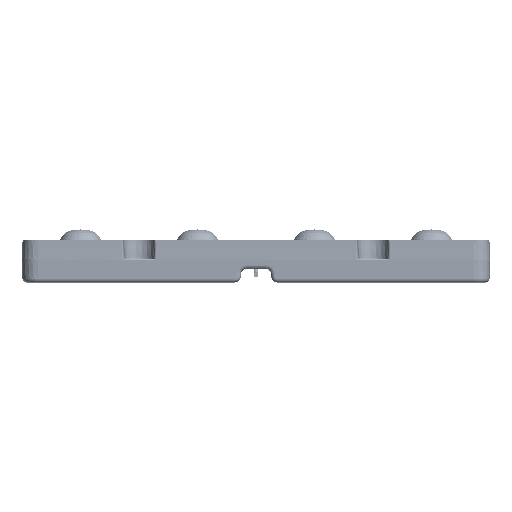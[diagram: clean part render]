
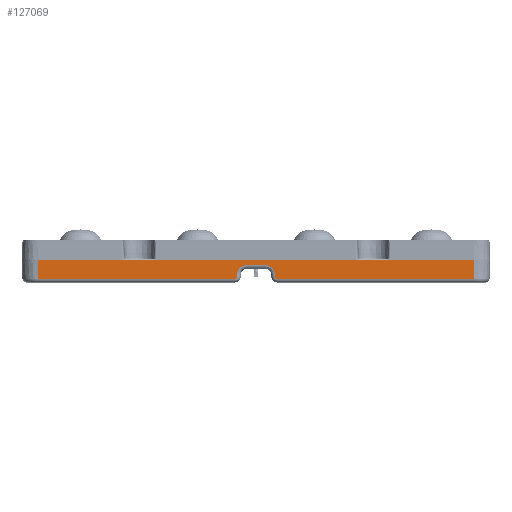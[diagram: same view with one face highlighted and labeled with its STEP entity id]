
A CAD part, front view. The second image highlights one B-rep face of the part: STEP entity #127069.
In plain terms, the highlighted planar face has unit normal (0, -1, -0.026).
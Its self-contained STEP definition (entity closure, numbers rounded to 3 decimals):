
#2927 = LINE ( 'NONE', #384863, #78579 ) ;
#4086 = CARTESIAN_POINT ( 'NONE',  ( -5.423, -59.875, -9.526 ) ) ;
#10270 = ORIENTED_EDGE ( 'NONE', *, *, #216749, .T. ) ;
#17976 = CARTESIAN_POINT ( 'NONE',  ( 4.89, -59.905, -8.395 ) ) ;
#20113 = FACE_OUTER_BOUND ( 'NONE', #346949, .T. ) ;
#27718 = EDGE_CURVE ( 'NONE', #396508, #205145, #86492, .T. ) ;
#31238 = LINE ( 'NONE', #100553, #364220 ) ;
#43070 = LINE ( 'NONE', #83146, #128778 ) ;
#48830 = DIRECTION ( 'NONE',  ( 0., -1., -0.026 ) ) ;
#53543 = DIRECTION ( 'NONE',  ( 0.052, 0.026, -0.998 ) ) ;
#53930 = CARTESIAN_POINT ( 'NONE',  ( 5.423, -59.875, -9.526 ) ) ;
#55706 = ORIENTED_EDGE ( 'NONE', *, *, #350644, .T. ) ;
#59962 = ORIENTED_EDGE ( 'NONE', *, *, #118695, .T. ) ;
#66367 = VECTOR ( 'NONE', #81716, 1000. ) ;
#66398 = LINE ( 'NONE', #222714, #409398 ) ;
#68999 = CARTESIAN_POINT ( 'NONE',  ( -4.924, -59.887, -9.052 ) ) ;
#69964 = CARTESIAN_POINT ( 'NONE',  ( -4.924, -59.887, -9.052 ) ) ;
#75151 = EDGE_CURVE ( 'NONE', #249907, #315292, #285956, .T. ) ;
#76267 = CARTESIAN_POINT ( 'NONE',  ( -3.798, -59.967, -6.026 ) ) ;
#78579 = VECTOR ( 'NONE', #417259, 1000. ) ;
#81716 = DIRECTION ( 'NONE',  ( 0., -0.026, 1. ) ) ;
#83146 = CARTESIAN_POINT ( 'NONE',  ( 4.686, -60.006, -4.505 ) ) ;
#83248 = VERTEX_POINT ( 'NONE', #397272 ) ;
#86492 = LINE ( 'NONE', #112741, #66367 ) ;
#86707 = ORIENTED_EDGE ( 'NONE', *, *, #414368, .T. ) ;
#95002 = VERTEX_POINT ( 'NONE', #257466 ) ;
#100553 = CARTESIAN_POINT ( 'NONE',  ( 56., -13126.899, 499000. ) ) ;
#101949 = DIRECTION ( 'NONE',  ( 0., 0.026, -1. ) ) ;
#112741 = CARTESIAN_POINT ( 'NONE',  ( -56., -13126.899, 499000. ) ) ;
#113855 = CARTESIAN_POINT ( 'NONE',  ( 3.798, -59.967, -6.026 ) ) ;
#118695 = EDGE_CURVE ( 'NONE', #325886, #395093, #225249, .T. ) ;
#120958 = EDGE_CURVE ( 'NONE', #189044, #325886, #154423, .T. ) ;
#127069 = ADVANCED_FACE ( 'NONE', ( #20113 ), #337807, .T. ) ;
#128689 = CARTESIAN_POINT ( 'NONE',  ( -4.888, -59.905, -8.369 ) ) ;
#128778 = VECTOR ( 'NONE', #53543, 1000. ) ;
#132250 = ORIENTED_EDGE ( 'NONE', *, *, #75151, .T. ) ;
#136662 = CARTESIAN_POINT ( 'NONE',  ( 2.393, -59.967, -6.026 ) ) ;
#149604 = CARTESIAN_POINT ( 'NONE',  ( -56., -60., -4.75 ) ) ;
#154423 = LINE ( 'NONE', #136662, #315924 ) ;
#155677 = VECTOR ( 'NONE', #183342, 1000. ) ;
#162759 = CARTESIAN_POINT ( 'NONE',  ( -2.393, -59.967, -6.026 ) ) ;
#163965 = VERTEX_POINT ( 'NONE', #277335 ) ;
#169036 = DIRECTION ( 'NONE',  ( 1., 0., 0. ) ) ;
#181096 = CARTESIAN_POINT ( 'NONE',  ( -56., -59.875, -9.526 ) ) ;
#183342 = DIRECTION ( 'NONE',  ( 1., 0., 0. ) ) ;
#189044 = VERTEX_POINT ( 'NONE', #162759 ) ;
#195891 =( BOUNDED_CURVE ( )  B_SPLINE_CURVE ( 3, ( #236951, #269369, #76267, #301822 ),
 .UNSPECIFIED., .F., .F. ) 
 B_SPLINE_CURVE_WITH_KNOTS ( ( 4, 4 ),
 ( 4.765, 6.283 ),
 .UNSPECIFIED. ) 
 CURVE ( )  GEOMETRIC_REPRESENTATION_ITEM ( )  RATIONAL_B_SPLINE_CURVE ( ( 1., 0.817, 0.817, 1. ) ) 
 REPRESENTATION_ITEM ( '' )  );
#205145 = VERTEX_POINT ( 'NONE', #149604 ) ;
#211128 = CARTESIAN_POINT ( 'NONE',  ( 2.393, -59.967, -6.026 ) ) ;
#211224 = EDGE_CURVE ( 'NONE', #83248, #249907, #216660, .T. ) ;
#216660 =( BOUNDED_CURVE ( )  B_SPLINE_CURVE ( 3, ( #4086, #291730, #262054, #68999 ),
 .UNSPECIFIED., .F., .F. ) 
 B_SPLINE_CURVE_WITH_KNOTS ( ( 4, 4 ),
 ( 3.142, 4.66 ),
 .UNSPECIFIED. ) 
 CURVE ( )  GEOMETRIC_REPRESENTATION_ITEM ( )  RATIONAL_B_SPLINE_CURVE ( ( 1., 0.817, 0.817, 1. ) ) 
 REPRESENTATION_ITEM ( '' )  );
#216749 = EDGE_CURVE ( 'NONE', #396508, #83248, #317124, .T. ) ;
#220191 = ORIENTED_EDGE ( 'NONE', *, *, #403149, .F. ) ;
#222714 = CARTESIAN_POINT ( 'NONE',  ( 0., -60., -4.75 ) ) ;
#225249 =( BOUNDED_CURVE ( )  B_SPLINE_CURVE ( 3, ( #211128, #113855, #404312, #17976 ),
 .UNSPECIFIED., .F., .F. ) 
 B_SPLINE_CURVE_WITH_KNOTS ( ( 4, 4 ),
 ( 0., 1.518 ),
 .UNSPECIFIED. ) 
 CURVE ( )  GEOMETRIC_REPRESENTATION_ITEM ( )  RATIONAL_B_SPLINE_CURVE ( ( 1., 0.817, 0.817, 1. ) ) 
 REPRESENTATION_ITEM ( '' )  );
#235262 = ORIENTED_EDGE ( 'NONE', *, *, #27718, .F. ) ;
#236734 = ORIENTED_EDGE ( 'NONE', *, *, #311216, .F. ) ;
#236860 = CARTESIAN_POINT ( 'NONE',  ( 5.423, -59.875, -9.526 ) ) ;
#236951 = CARTESIAN_POINT ( 'NONE',  ( -4.89, -59.905, -8.395 ) ) ;
#237126 = ORIENTED_EDGE ( 'NONE', *, *, #383033, .T. ) ;
#237369 = AXIS2_PLACEMENT_3D ( 'NONE', #402710, #48830, #274293 ) ;
#247018 = CARTESIAN_POINT ( 'NONE',  ( 5.143, -59.875, -9.526 ) ) ;
#249907 = VERTEX_POINT ( 'NONE', #69964 ) ;
#257466 = CARTESIAN_POINT ( 'NONE',  ( 56., -60., -4.75 ) ) ;
#262054 = CARTESIAN_POINT ( 'NONE',  ( -4.939, -59.88, -9.333 ) ) ;
#269369 = CARTESIAN_POINT ( 'NONE',  ( -4.816, -59.941, -6.993 ) ) ;
#274293 = DIRECTION ( 'NONE',  ( 0., 0.026, -1. ) ) ;
#276622 = CARTESIAN_POINT ( 'NONE',  ( 4.924, -59.887, -9.052 ) ) ;
#277335 = CARTESIAN_POINT ( 'NONE',  ( 4.924, -59.887, -9.052 ) ) ;
#285956 = LINE ( 'NONE', #128689, #361733 ) ;
#291730 = CARTESIAN_POINT ( 'NONE',  ( -5.143, -59.875, -9.526 ) ) ;
#295698 = CARTESIAN_POINT ( 'NONE',  ( 56., -59.875, -9.526 ) ) ;
#301822 = CARTESIAN_POINT ( 'NONE',  ( -2.393, -59.967, -6.026 ) ) ;
#311216 = EDGE_CURVE ( 'NONE', #205145, #95002, #66398, .T. ) ;
#315292 = VERTEX_POINT ( 'NONE', #403570 ) ;
#315924 = VECTOR ( 'NONE', #169036, 1000. ) ;
#317124 = LINE ( 'NONE', #376671, #155677 ) ;
#325886 = VERTEX_POINT ( 'NONE', #402952 ) ;
#337807 = PLANE ( 'NONE',  #237369 ) ;
#346949 = EDGE_LOOP ( 'NONE', ( #235262, #10270, #356138, #132250, #55706, #362796, #59962, #411024, #237126, #86707, #220191, #236734 ) ) ;
#347554 = VERTEX_POINT ( 'NONE', #236860 ) ;
#350644 = EDGE_CURVE ( 'NONE', #315292, #189044, #195891, .T. ) ;
#350984 = EDGE_CURVE ( 'NONE', #395093, #163965, #43070, .T. ) ;
#354270 = DIRECTION ( 'NONE',  ( 0.052, -0.026, 0.998 ) ) ;
#356138 = ORIENTED_EDGE ( 'NONE', *, *, #211224, .T. ) ;
#358060 = CARTESIAN_POINT ( 'NONE',  ( 4.89, -59.905, -8.395 ) ) ;
#361733 = VECTOR ( 'NONE', #354270, 1000. ) ;
#362796 = ORIENTED_EDGE ( 'NONE', *, *, #120958, .T. ) ;
#364220 = VECTOR ( 'NONE', #101949, 1000. ) ;
#376671 = CARTESIAN_POINT ( 'NONE',  ( 0., -59.875, -9.526 ) ) ;
#383033 = EDGE_CURVE ( 'NONE', #163965, #347554, #396952, .T. ) ;
#383483 = DIRECTION ( 'NONE',  ( 1., 0., 0. ) ) ;
#384863 = CARTESIAN_POINT ( 'NONE',  ( 0., -59.875, -9.526 ) ) ;
#395093 = VERTEX_POINT ( 'NONE', #358060 ) ;
#396508 = VERTEX_POINT ( 'NONE', #181096 ) ;
#396952 =( BOUNDED_CURVE ( )  B_SPLINE_CURVE ( 3, ( #276622, #407807, #247018, #53930 ),
 .UNSPECIFIED., .F., .F. ) 
 B_SPLINE_CURVE_WITH_KNOTS ( ( 4, 4 ),
 ( 1.623, 3.142 ),
 .UNSPECIFIED. ) 
 CURVE ( )  GEOMETRIC_REPRESENTATION_ITEM ( )  RATIONAL_B_SPLINE_CURVE ( ( 1., 0.817, 0.817, 1. ) ) 
 REPRESENTATION_ITEM ( '' )  );
#397272 = CARTESIAN_POINT ( 'NONE',  ( -5.423, -59.875, -9.526 ) ) ;
#402710 = CARTESIAN_POINT ( 'NONE',  ( 0., -60., -4.75 ) ) ;
#402952 = CARTESIAN_POINT ( 'NONE',  ( 2.393, -59.967, -6.026 ) ) ;
#403149 = EDGE_CURVE ( 'NONE', #95002, #406910, #31238, .T. ) ;
#403570 = CARTESIAN_POINT ( 'NONE',  ( -4.89, -59.905, -8.395 ) ) ;
#404312 = CARTESIAN_POINT ( 'NONE',  ( 4.816, -59.941, -6.993 ) ) ;
#406910 = VERTEX_POINT ( 'NONE', #295698 ) ;
#407807 = CARTESIAN_POINT ( 'NONE',  ( 4.939, -59.88, -9.333 ) ) ;
#409398 = VECTOR ( 'NONE', #383483, 1000. ) ;
#411024 = ORIENTED_EDGE ( 'NONE', *, *, #350984, .T. ) ;
#414368 = EDGE_CURVE ( 'NONE', #347554, #406910, #2927, .T. ) ;
#417259 = DIRECTION ( 'NONE',  ( 1., 0., 0. ) ) ;
